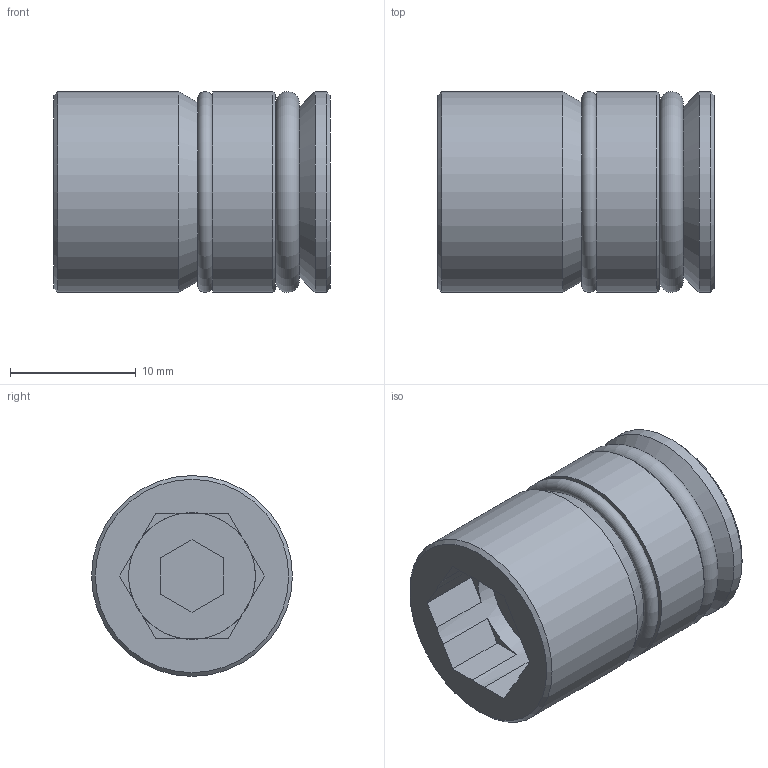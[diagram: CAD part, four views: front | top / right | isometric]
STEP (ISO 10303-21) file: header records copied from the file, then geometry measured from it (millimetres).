
FILE_DESCRIPTION( ( 'STEP AP214' ), '1' );
FILE_NAME( 'p:/temp/worker_234/temp/exporttempdir_4264_1146_kxKBl/format_0/TRI-16.stp', '2021-02-05T19:28:42', ( 'License CC BY-ND 4.0' ), ( 'CADENAS' ), ' ', 'PARTsolutions', ' ' );
FILE_SCHEMA( ( 'AUTOMOTIVE_DESIGN { 1 0 10303 214 1 1 1 1 }' ) );
Length unit declared in the file: millimetre
Products named in the file (1): _TRI-16
Bounding box: 22 x 16 x 16 mm (x, y, z)
Volume: 3604.6 mm3; surface area: 2057.1 mm2
Topology: 1 solids, 1 shells, 41 faces, 98 edges, 63 vertices
Faces by surface type: plane 30, cone 5, cylinder 4, torus 2
Full cylindrical faces by diameter (mm): 10.1 x1, 16 x3
Entity records: 1470 total; most frequent: DIRECTION 196, CARTESIAN_POINT 192, ORIENTED_EDGE 172, EDGE_CURVE 86, AXIS2_PLACEMENT_3D 68, VERTEX_POINT 64, LINE 60, VECTOR 60
